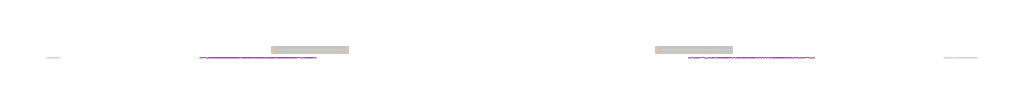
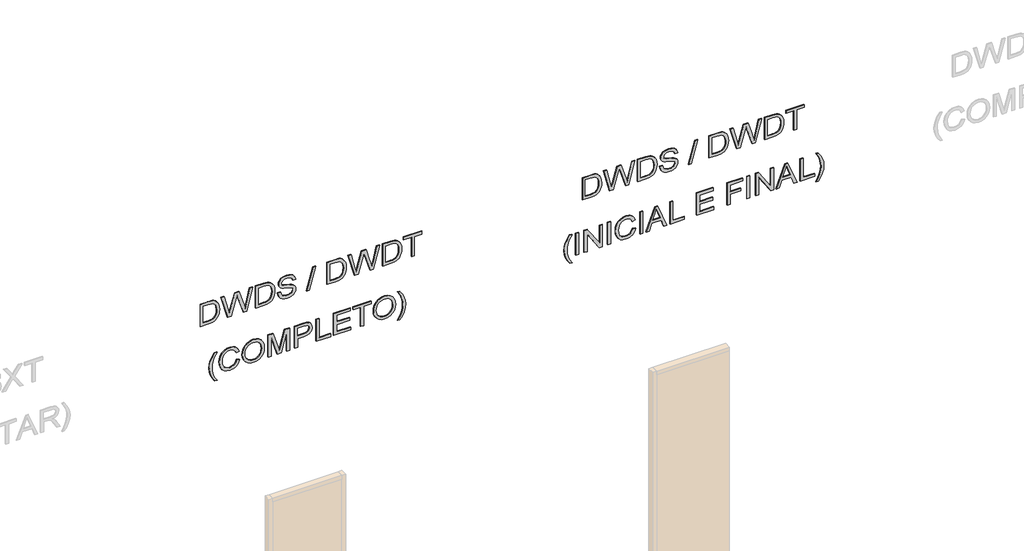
# One storey, part 6 of 7: 2 proxies.
"""IFC4 building model written with IfcOpenShell, lengths in millimetres."""

from ifc_helpers import new_model, si_unit, frame, origin, place, context, project, spatial, polyline, outline, extrude, element, save

model = new_model("IFC4")

# Units and contexts
model_context = context("Model", 3, world=origin())
ifc_project = project(units=[si_unit("LENGTHUNIT", "METRE", prefix="MILLI")], contexts=[model_context])

# Site, building, storey
site = spatial("IfcSite", under=ifc_project)
building = spatial("IfcBuilding", under=site)
storey = spatial("IfcBuildingStorey", under=building, Name="02 - Marelli - Planta Baixa - Painel Duplo", Elevation=-12000.0)

# Proxies
placement = place(None, origin())
element("IfcBuildingElementProxy", 1, Name="300mm Arial", ObjectType="300mm Arial", at=placement, inside=storey, context=model_context, shape_type="SweptSolid", body=[
    extrude(outline(polyline([(-6049.0625952, 42443.5157553), (-6049.0625952, 42552.4824023), (-6043.9122473, 42600.932461), (-6037.5570858, 42620.476192), (-6028.7922972, 42636.9481084), (-6016.9740882, 42651.2955062), (-6001.458665, 42664.4656816), (-5981.8045694, 42675.9068116), (-5957.570343, 42685.0670733), (-5929.1054736, 42691.0819439), (-5896.7594492, 42693.0869008), (-5858.6836627, 42690.1254508), (-5825.0960365, 42681.2411006), (-5796.5483937, 42666.3970621), (-5773.5925572, 42645.556547), (-5760.4039877, 42625.2862491), (-5752.0346723, 42601.2635548), (-5747.6936647, 42547.4792071), (-5747.6936647, 42443.5157553), (-6049.0625952, 42443.5157553)]), holes=[polyline([(-6011.3914789, 42481.1868716), (-5785.364781, 42481.1868716), (-5785.364781, 42546.8170195), (-5786.8730972, 42578.5652357), (-5791.3980458, 42600.2334852), (-5803.97961, 42621.5246557), (-5824.8017309, 42639.3393413), (-5855.1152073, 42651.3966737), (-5896.170838, 42655.4157845), (-5927.155699, 42653.3648424), (-5953.155759, 42647.212016), (-5974.2629885, 42637.3803697), (-5990.5693579, 42624.2929677), (-5999.3801317, 42612.1160737), (-6005.9468253, 42596.3339361), (-6010.0303155, 42575.4198447), (-6011.3914789, 42547.8470891), (-6011.3914789, 42481.1868716)])]), frame((0.0, 8778.3159498, 0.0), z_axis=(0.0, 1.0, 0.0), x_axis=(0.0, 0.0, 1.0)), (0.0, 0.0, 1.0), 10.0),
    extrude(outline(polyline([(-6049.0625952, 42798.8161862), (-6049.0625952, 42844.2864008), (-5823.1830501, 42910.137278), (-5784.1139823, 42921.4680434), (-5816.5611742, 42931.5480101), (-6049.0625952, 43003.8000339), (-6049.0625952, 43044.0463242), (-5747.6936647, 43126.3047383), (-5747.6936647, 43087.4563996), (-5947.5271645, 43039.3374347), (-6006.9033185, 43025.0636133), (-5951.5738665, 43011.3600089), (-5896.3915672, 42992.7635741), (-5747.6936647, 42949.3534987), (-5747.6936647, 42893.361859), (-5952.8246652, 42833.617823), (-6006.9033185, 42817.8724736), (-5945.7613309, 42803.1571938), (-5747.6936647, 42755.4796872), (-5747.6936647, 42716.6313485), (-6049.0625952, 42798.8161862)])), frame((0.0, 8778.3159498, 0.0), z_axis=(0.0, 1.0, 0.0), x_axis=(0.0, 0.0, 1.0)), (0.0, 0.0, 1.0), 10.0),
    extrude(outline(polyline([(-6049.0625952, 43163.9758546), (-6049.0625952, 43272.9425016), (-6043.9122473, 43321.3925604), (-6037.5570858, 43340.9362914), (-6028.7922972, 43357.4082077), (-6016.9740882, 43371.7556055), (-6001.458665, 43384.9257809), (-5981.8045694, 43396.366911), (-5957.570343, 43405.5271727), (-5929.1054736, 43411.5420433), (-5896.7594492, 43413.5470002), (-5858.6836627, 43410.5855501), (-5825.0960365, 43401.7011999), (-5796.5483937, 43386.8571614), (-5773.5925572, 43366.0166464), (-5760.4039877, 43345.7463485), (-5752.0346723, 43321.7236542), (-5747.6936647, 43267.9393065), (-5747.6936647, 43163.9758546), (-6049.0625952, 43163.9758546)]), holes=[polyline([(-6011.3914789, 43201.646971), (-5785.364781, 43201.646971), (-5785.364781, 43267.2771189), (-5786.8730972, 43299.0253351), (-5791.3980458, 43320.6935846), (-5803.97961, 43341.9847551), (-5824.8017309, 43359.7994407), (-5855.1152073, 43371.8567731), (-5896.170838, 43375.8758839), (-5927.155699, 43373.8249417), (-5953.155759, 43367.6721154), (-5974.2629885, 43357.8404691), (-5990.5693579, 43344.7530671), (-5999.3801317, 43332.576173), (-6005.9468253, 43316.7940354), (-6010.0303155, 43295.879944), (-6011.3914789, 43268.3071885), (-6011.3914789, 43201.646971)])]), frame((0.0, 8778.3159498, 0.0), z_axis=(0.0, 1.0, 0.0), x_axis=(0.0, 0.0, 1.0)), (0.0, 0.0, 1.0), 10.0),
    extrude(outline(polyline([(-5945.4670253, 43451.2181165), (-5975.8908663, 43455.6878827), (-6003.0037694, 43467.4785007), (-6025.2606301, 43485.8450093), (-6041.1163441, 43510.0424475), (-6050.6076996, 43540.4203033), (-6053.7714847, 43577.3280644), (-6050.8376258, 43607.3932205), (-6042.0360491, 43634.3129855), (-6027.9461687, 43656.6986049), (-6009.1473987, 43673.1613242), (-5987.3044052, 43683.2872761), (-5964.0818543, 43686.6625934), (-5941.3651411, 43683.7287345), (-5921.4811193, 43674.9271577), (-5904.6137298, 43659.9451635), (-5890.9469137, 43638.470052), (-5882.1361399, 43613.3437118), (-5872.0377791, 43571.8098345), (-5861.4059894, 43531.5635442), (-5850.994929, 43510.2999649), (-5839.3514638, 43501.3052501), (-5824.8753073, 43498.3070119), (-5807.8975532, 43502.5376548), (-5793.6053377, 43515.2295836), (-5783.8932531, 43537.1737447), (-5780.6558915, 43569.1610841), (-5783.9300413, 43600.4126596), (-5793.7524905, 43622.9454318), (-5809.9760865, 43637.366406), (-5832.4536764, 43644.2825875), (-5832.4536764, 43681.9537039), (-5807.4928831, 43677.7046668), (-5785.2912046, 43667.0176948), (-5766.9890754, 43650.1319113), (-5753.7269295, 43627.2864394), (-5745.6703138, 43599.4745605), (-5742.9847752, 43567.6895562), (-5745.5507521, 43538.350967), (-5753.2486829, 43511.8450693), (-5765.9038235, 43489.7629525), (-5783.3414301, 43473.6957064), (-5803.9152306, 43463.9008483), (-5825.9789533, 43460.6358956), (-5845.7158223, 43463.2754489), (-5863.4293404, 43471.1941088), (-5878.7884137, 43484.4838459), (-5891.4619484, 43503.2366306), (-5900.5210426, 43526.2752405), (-5910.0399892, 43562.2816908), (-5924.4241752, 43617.1328963), (-5932.2324706, 43633.2093395), (-5941.530688, 43642.7374832), (-5952.4291921, 43647.4279786), (-5965.0383475, 43648.9914771), (-5977.9785967, 43646.9037468), (-5990.3118406, 43640.6405558), (-6001.0539948, 43630.1099337), (-6009.2209751, 43615.2199099), (-6014.3805201, 43596.8442043), (-6016.1003684, 43575.8565364), (-6013.8286971, 43552.0177832), (-6007.0136831, 43530.6806274), (-5996.5106522, 43513.2246268), (-5983.1749298, 43501.0293386), (-5966.3719197, 43493.2118462), (-5945.4670253, 43488.8892328), (-5945.4670253, 43451.2181165)])), frame((0.0, 8778.3159498, 0.0), z_axis=(0.0, 1.0, 0.0), x_axis=(0.0, 0.0, 1.0)), (0.0, 0.0, 1.0), 10.0),
    extrude(outline(polyline([(-6049.0625952, 43827.9292795), (-6049.0625952, 43861.9215759), (-5747.6936647, 43946.6815876), (-5747.6936647, 43912.6892912), (-6049.0625952, 43827.9292795)])), frame((0.0, 8778.3159498, 0.0), z_axis=(0.0, 1.0, 0.0), x_axis=(0.0, 0.0, 1.0)), (0.0, 0.0, 1.0), 10.0),
    extrude(outline(polyline([(-6049.0625952, 44096.3359832), (-6049.0625952, 44205.3026302), (-6043.9122473, 44253.752689), (-6037.5570858, 44273.29642), (-6028.7922972, 44289.7683363), (-6016.9740882, 44304.1157341), (-6001.458665, 44317.2859095), (-5981.8045694, 44328.7270396), (-5957.570343, 44337.8873013), (-5929.1054736, 44343.9021719), (-5896.7594492, 44345.9071287), (-5858.6836627, 44342.9456787), (-5825.0960365, 44334.0613285), (-5796.5483937, 44319.21729), (-5773.5925572, 44298.376775), (-5760.4039877, 44278.106477), (-5752.0346723, 44254.0837828), (-5747.6936647, 44200.2994351), (-5747.6936647, 44096.3359832), (-6049.0625952, 44096.3359832)]), holes=[polyline([(-6011.3914789, 44134.0070995), (-5785.364781, 44134.0070995), (-5785.364781, 44199.6372475), (-5786.8730972, 44231.3854636), (-5791.3980458, 44253.0537132), (-5803.97961, 44274.3448836), (-5824.8017309, 44292.1595693), (-5855.1152073, 44304.2169016), (-5896.170838, 44308.2360124), (-5927.155699, 44306.1850703), (-5953.155759, 44300.0322439), (-5974.2629885, 44290.2005976), (-5990.5693579, 44277.1131957), (-5999.3801317, 44264.9363016), (-6005.9468253, 44249.154164), (-6010.0303155, 44228.2400726), (-6011.3914789, 44200.6673171), (-6011.3914789, 44134.0070995)])]), frame((0.0, 8778.3159498, 0.0), z_axis=(0.0, 1.0, 0.0), x_axis=(0.0, 0.0, 1.0)), (0.0, 0.0, 1.0), 10.0),
    extrude(outline(polyline([(-6049.0625952, 44451.6364142), (-6049.0625952, 44497.1066288), (-5823.1830501, 44562.9575059), (-5784.1139823, 44574.2882714), (-5816.5611742, 44584.368238), (-6049.0625952, 44656.6202619), (-6049.0625952, 44696.8665521), (-5747.6936647, 44779.1249663), (-5747.6936647, 44740.2766276), (-5947.5271645, 44692.1576626), (-6006.9033185, 44677.8838412), (-5951.5738665, 44664.1802369), (-5896.3915672, 44645.583802), (-5747.6936647, 44602.1737266), (-5747.6936647, 44546.1820869), (-5952.8246652, 44486.4380509), (-6006.9033185, 44470.6927015), (-5945.7613309, 44455.9774217), (-5747.6936647, 44408.2999151), (-5747.6936647, 44369.4515764), (-6049.0625952, 44451.6364142)])), frame((0.0, 8778.3159498, 0.0), z_axis=(0.0, 1.0, 0.0), x_axis=(0.0, 0.0, 1.0)), (0.0, 0.0, 1.0), 10.0),
    extrude(outline(polyline([(-6049.0625952, 44816.7960826), (-6049.0625952, 44925.7627295), (-6043.9122473, 44974.2127883), (-6037.5570858, 44993.7565193), (-6028.7922972, 45010.2284356), (-6016.9740882, 45024.5758335), (-6001.458665, 45037.7460089), (-5981.8045694, 45049.1871389), (-5957.570343, 45058.3474006), (-5929.1054736, 45064.3622712), (-5896.7594492, 45066.3672281), (-5858.6836627, 45063.405778), (-5825.0960365, 45054.5214279), (-5796.5483937, 45039.6773894), (-5773.5925572, 45018.8368743), (-5760.4039877, 44998.5665764), (-5752.0346723, 44974.5438821), (-5747.6936647, 44920.7595344), (-5747.6936647, 44816.7960826), (-6049.0625952, 44816.7960826)]), holes=[polyline([(-6011.3914789, 44854.4671989), (-5785.364781, 44854.4671989), (-5785.364781, 44920.0973468), (-5786.8730972, 44951.845563), (-5791.3980458, 44973.5138125), (-5803.97961, 44994.804983), (-5824.8017309, 45012.6196686), (-5855.1152073, 45024.677001), (-5896.170838, 45028.6961118), (-5927.155699, 45026.6451697), (-5953.155759, 45020.4923433), (-5974.2629885, 45010.660697), (-5990.5693579, 44997.573295), (-5999.3801317, 44985.396401), (-6005.9468253, 44969.6142634), (-6010.0303155, 44948.7001719), (-6011.3914789, 44921.1274164), (-6011.3914789, 44854.4671989)])]), frame((0.0, 8778.3159498, 0.0), z_axis=(0.0, 1.0, 0.0), x_axis=(0.0, 0.0, 1.0)), (0.0, 0.0, 1.0), 10.0),
    extrude(outline(polyline([(-6049.0625952, 45193.5072456), (-6049.0625952, 45231.1783619), (-5785.364781, 45231.1783619), (-5785.364781, 45330.0650422), (-5747.6936647, 45330.0650422), (-5747.6936647, 45094.6205653), (-5785.364781, 45094.6205653), (-5785.364781, 45193.5072456), (-6049.0625952, 45193.5072456)])), frame((0.0, 8778.3159498, 0.0), z_axis=(0.0, 1.0, 0.0), x_axis=(0.0, 0.0, 1.0)), (0.0, 0.0, 1.0), 10.0),
    extrude(outline(polyline([(-6865.6715139, 42631.8713368), (-6865.6715139, 42660.1246741), (-6817.4329873, 42631.2827256), (-6769.1760666, 42610.6813339), (-6720.9007518, 42598.3204989), (-6672.6070429, 42594.2002205), (-6634.7335915, 42596.5730594), (-6597.0440811, 42603.691576), (-6539.2130314, 42624.8815789), (-6479.5425718, 42660.1246741), (-6479.5425718, 42631.8713368), (-6530.0527697, 42597.1800647), (-6580.7836969, 42572.8630648), (-6625.5733298, 42560.6125944), (-6672.3863137, 42556.5291042), (-6725.7659912, 42561.9921518), (-6777.3062587, 42578.3812947), (-6824.7078538, 42602.6799005), (-6865.6715139, 42631.8713368)])), frame((0.0, 8778.3159498, 0.0), z_axis=(0.0, 1.0, 0.0), x_axis=(0.0, 0.0, 1.0)), (0.0, 0.0, 1.0), 10.0),
    extrude(outline(polyline([(-6673.7842653, 42914.4047091), (-6706.0475162, 42902.218618), (-6729.2608701, 42882.4357637), (-6743.2771741, 42856.2333686), (-6747.9492755, 42824.7886551), (-6744.5187759, 42797.8137078), (-6734.2272771, 42772.8069292), (-6717.0012026, 42751.94802), (-6692.7669762, 42737.4166812), (-6662.674229, 42728.891016), (-6627.8725923, 42726.0491276), (-6599.4537081, 42728.4495576), (-6571.8809526, 42735.6508477), (-6547.4903763, 42748.7750378), (-6528.61803, 42768.9441682), (-6516.5331064, 42795.5236424), (-6512.5047986, 42827.8788639), (-6516.1376333, 42855.9482601), (-6527.0361374, 42878.793732), (-6545.8808926, 42896.6360087), (-6573.3524806, 42909.6958196), (-6564.3761599, 42947.3669359), (-6526.5578908, 42930.7294727), (-6511.2356057, 42918.9273584), (-6498.3045536, 42904.802989), (-6488.0360474, 42888.623079), (-6480.7014001, 42870.6543428), (-6474.8336823, 42829.3503918), (-6479.3678279, 42791.4953345), (-6492.9702646, 42756.9512152), (-6515.3098988, 42727.8241582), (-6546.0556365, 42706.220288), (-6584.0026643, 42692.8385805), (-6627.9461687, 42688.3780113), (-6669.6088046, 42692.3235457), (-6708.5123256, 42704.1601489), (-6741.6033111, 42723.54753), (-6765.8283405, 42750.1453983), (-6780.672379, 42784.8458675), (-6785.6203918, 42828.5410514), (-6783.9856162, 42850.963459), (-6779.0812893, 42871.5832449), (-6770.9074112, 42890.4004089), (-6759.4639819, 42907.4149512), (-6744.9073512, 42922.2911794), (-6727.393869, 42934.6934012), (-6706.9235352, 42944.6216165), (-6683.4963499, 42952.0758254), (-6673.7842653, 42914.4047091)])), frame((0.0, 8778.3159498, 0.0), z_axis=(0.0, 1.0, 0.0), x_axis=(0.0, 0.0, 1.0)), (0.0, 0.0, 1.0), 10.0),
    extrude(outline(polyline([(-6634.2001626, 42989.7469417), (-6672.7449986, 42994.0511611), (-6709.2113014, 43006.9638191), (-6740.9043353, 43028.2273984), (-6765.1293647, 43057.5843816), (-6780.497635, 43093.232147), (-6785.6203918, 43133.3680726), (-6780.9850787, 43171.1771447), (-6767.0791392, 43206.3190723), (-6744.1600909, 43236.2830608), (-6712.4854512, 43258.5583156), (-6674.0233886, 43272.3814816), (-6630.7420718, 43276.9892036), (-6588.0309722, 43272.6114078), (-6550.1023385, 43259.4780206), (-6518.482881, 43237.9937121), (-6494.69931, 43208.5631525), (-6479.8000892, 43173.1177222), (-6474.8336823, 43133.5888018), (-6477.4778341, 43103.2983181), (-6485.4102896, 43075.9232991), (-6498.6310488, 43051.4637449), (-6517.1401117, 43029.9196556), (-6540.3212759, 43012.3440933), (-6567.5583392, 42999.7901202), (-6598.8513014, 42992.2577363), (-6634.2001626, 42989.7469417)]), holes=[polyline([(-6634.5680446, 43027.418058), (-6604.0315397, 43029.3816282), (-6578.1993259, 43035.2723386), (-6557.071403, 43045.0901894), (-6540.6477712, 43058.8351804), (-6528.3352207, 43075.3024982), (-6519.5405417, 43093.2873293), (-6514.2637344, 43112.7896735), (-6512.5047986, 43133.809531), (-6516.1560274, 43162.9733762), (-6527.1097138, 43189.1021949), (-6544.7036702, 43210.7612474), (-6568.275709, 43226.5157938), (-6597.0992634, 43236.1175139), (-6630.4477662, 43239.3180873), (-6656.9858537, 43237.4487869), (-6680.3141707, 43231.8408857), (-6700.4327173, 43222.4943838), (-6717.3414935, 43209.409281), (-6730.7323981, 43193.4271076), (-6740.29733, 43175.3893935), (-6746.0362891, 43155.2961388), (-6747.9492755, 43133.1473434), (-6746.0546832, 43111.3710286), (-6740.3709064, 43091.5122986), (-6730.897945, 43073.5711536), (-6717.6357991, 43057.5475934), (-6701.0765108, 43044.3659217), (-6681.7121223, 43034.9504419), (-6659.5426335, 43029.301154), (-6634.5680446, 43027.418058)])]), frame((0.0, 8778.3159498, 0.0), z_axis=(0.0, 1.0, 0.0), x_axis=(0.0, 0.0, 1.0)), (0.0, 0.0, 1.0), 10.0),
    extrude(outline(polyline([(-6780.9115023, 43328.7869885), (-6780.9115023, 43366.4581048), (-6517.2136881, 43366.4581048), (-6780.9115023, 43442.1682194), (-6780.9115023, 43493.2302403), (-6517.2136881, 43568.9403549), (-6780.9115023, 43568.9403549), (-6780.9115023, 43606.6114712), (-6479.5425718, 43606.6114712), (-6479.5425718, 43541.7906637), (-6688.2788159, 43481.1637109), (-6736.3242044, 43467.6992299), (-6691.9576358, 43455.2648184), (-6479.5425718, 43393.607796), (-6479.5425718, 43328.7869885), (-6780.9115023, 43328.7869885)])), frame((0.0, 8778.3159498, 0.0), z_axis=(0.0, 1.0, 0.0), x_axis=(0.0, 0.0, 1.0)), (0.0, 0.0, 1.0), 10.0),
    extrude(outline(polyline([(-6780.9115023, 43672.5359248), (-6780.9115023, 43710.2070411), (-6658.4803743, 43710.2070411), (-6658.4803743, 43786.8000725), (-6656.8157082, 43815.9984066), (-6651.8217101, 43840.3177057), (-6643.49838, 43859.7579699), (-6631.8457178, 43874.3191991), (-6617.7880271, 43884.9256969), (-6602.2496113, 43892.5017667), (-6585.2304705, 43897.0474086), (-6566.7306047, 43898.5626226), (-6545.2738873, 43896.3185424), (-6525.6381858, 43889.5863019), (-6508.9915255, 43879.1660444), (-6496.5019318, 43865.8579132), (-6487.7739314, 43849.3308146), (-6482.4120514, 43829.2536547), (-6479.5425718, 43784.2248985), (-6479.5425718, 43672.5359248), (-6780.9115023, 43672.5359248)]), holes=[polyline([(-6620.809258, 43710.2070411), (-6517.2136881, 43710.2070411), (-6517.2136881, 43788.1244477), (-6519.7888621, 43825.795564), (-6526.1164324, 43840.0234001), (-6536.8585867, 43851.2162098), (-6551.1324081, 43858.4726822), (-6568.0549798, 43860.8915063), (-6590.3302347, 43856.7896221), (-6606.9768949, 43844.4839693), (-6617.3511672, 43822.4110496), (-6620.809258, 43789.0073644), (-6620.809258, 43710.2070411)])]), frame((0.0, 8778.3159498, 0.0), z_axis=(0.0, 1.0, 0.0), x_axis=(0.0, 0.0, 1.0)), (0.0, 0.0, 1.0), 10.0),
    extrude(outline(polyline([(-6780.9115023, 43950.3604075), (-6780.9115023, 44138.7159891), (-6743.2403859, 44138.7159891), (-6743.2403859, 43988.0315238), (-6479.5425718, 43988.0315238), (-6479.5425718, 43950.3604075), (-6780.9115023, 43950.3604075)])), frame((0.0, 8778.3159498, 0.0), z_axis=(0.0, 1.0, 0.0), x_axis=(0.0, 0.0, 1.0)), (0.0, 0.0, 1.0), 10.0),
    extrude(outline(polyline([(-6780.9115023, 44181.0959949), (-6780.9115023, 44402.4138032), (-6743.2403859, 44402.4138032), (-6743.2403859, 44218.7671112), (-6644.3537056, 44218.7671112), (-6644.3537056, 44388.2871346), (-6606.6825893, 44388.2871346), (-6606.6825893, 44218.7671112), (-6517.2136881, 44218.7671112), (-6517.2136881, 44397.7049137), (-6479.5425718, 44397.7049137), (-6479.5425718, 44181.0959949), (-6780.9115023, 44181.0959949)])), frame((0.0, 8778.3159498, 0.0), z_axis=(0.0, 1.0, 0.0), x_axis=(0.0, 0.0, 1.0)), (0.0, 0.0, 1.0), 10.0),
    extrude(outline(polyline([(-6780.9115023, 44534.2627103), (-6780.9115023, 44571.9338266), (-6517.2136881, 44571.9338266), (-6517.2136881, 44670.8205069), (-6479.5425718, 44670.8205069), (-6479.5425718, 44435.37603), (-6517.2136881, 44435.37603), (-6517.2136881, 44534.2627103), (-6780.9115023, 44534.2627103)])), frame((0.0, 8778.3159498, 0.0), z_axis=(0.0, 1.0, 0.0), x_axis=(0.0, 0.0, 1.0)), (0.0, 0.0, 1.0), 10.0),
    extrude(outline(polyline([(-6634.2001626, 44699.0738441), (-6672.7449986, 44703.3780635), (-6709.2113014, 44716.2907215), (-6740.9043353, 44737.5543008), (-6765.1293647, 44766.911284), (-6780.497635, 44802.5590494), (-6785.6203918, 44842.694975), (-6780.9850787, 44880.5040471), (-6767.0791392, 44915.6459747), (-6744.1600909, 44945.6099632), (-6712.4854512, 44967.885218), (-6674.0233886, 44981.708384), (-6630.7420718, 44986.316106), (-6588.0309722, 44981.9383102), (-6550.1023385, 44968.804923), (-6518.482881, 44947.3206145), (-6494.69931, 44917.8900548), (-6479.8000892, 44882.4446246), (-6474.8336823, 44842.9157042), (-6477.4778341, 44812.6252205), (-6485.4102896, 44785.2502015), (-6498.6310488, 44760.7906473), (-6517.1401117, 44739.246558), (-6540.3212759, 44721.6709957), (-6567.5583392, 44709.1170226), (-6598.8513014, 44701.5846387), (-6634.2001626, 44699.0738441)]), holes=[polyline([(-6634.5680446, 44736.7449604), (-6604.0315397, 44738.7085306), (-6578.1993259, 44744.599241), (-6557.071403, 44754.4170918), (-6540.6477712, 44768.1620828), (-6528.3352207, 44784.6294006), (-6519.5405417, 44802.6142317), (-6514.2637344, 44822.1165759), (-6512.5047986, 44843.1364334), (-6516.1560274, 44872.3002786), (-6527.1097138, 44898.4290973), (-6544.7036702, 44920.0881498), (-6568.275709, 44935.8426962), (-6597.0992634, 44945.4444163), (-6630.4477662, 44948.6449896), (-6656.9858537, 44946.7756893), (-6680.3141707, 44941.1677881), (-6700.4327173, 44931.8212862), (-6717.3414935, 44918.7361834), (-6730.7323981, 44902.75401), (-6740.29733, 44884.7162959), (-6746.0362891, 44864.6230412), (-6747.9492755, 44842.4742458), (-6746.0546832, 44820.697931), (-6740.3709064, 44800.839201), (-6730.897945, 44782.898056), (-6717.6357991, 44766.8744958), (-6701.0765108, 44753.6928241), (-6681.7121223, 44744.2773443), (-6659.5426335, 44738.6280564), (-6634.5680446, 44736.7449604)])]), frame((0.0, 8778.3159498, 0.0), z_axis=(0.0, 1.0, 0.0), x_axis=(0.0, 0.0, 1.0)), (0.0, 0.0, 1.0), 10.0),
    extrude(outline(polyline([(-6865.6715139, 45042.8227804), (-6824.7078538, 45071.876261), (-6777.3062587, 45096.2024579), (-6725.7659912, 45112.6743742), (-6672.3863137, 45118.165013), (-6625.5733298, 45114.0815229), (-6580.7836969, 45101.8310524), (-6530.0527697, 45077.5140526), (-6479.5425718, 45042.8227804), (-6479.5425718, 45014.5694432), (-6539.8016426, 45050.0332675), (-6568.1469503, 45062.0078265), (-6597.7062687, 45071.0025412), (-6635.009503, 45078.1210578), (-6672.6070429, 45080.4938967), (-6720.9007518, 45076.3736184), (-6769.1760666, 45064.0127833), (-6817.4329873, 45043.4113916), (-6865.6715139, 45014.5694432), (-6865.6715139, 45042.8227804)])), frame((0.0, 8778.3159498, 0.0), z_axis=(0.0, 1.0, 0.0), x_axis=(0.0, 0.0, 1.0)), (0.0, 0.0, 1.0), 10.0),
])
element("IfcBuildingElementProxy", 2, Name="300mm Arial", ObjectType="300mm Arial", at=placement, inside=storey, context=model_context, shape_type="SweptSolid", body=[
    extrude(outline(polyline([(-6049.0625952, 47422.3257524), (-6049.0625952, 47531.2923993), (-6043.9122473, 47579.7424581), (-6037.5570858, 47599.2861891), (-6028.7922972, 47615.7581054), (-6016.9740882, 47630.1055032), (-6001.458665, 47643.2756787), (-5981.8045694, 47654.7168087), (-5957.570343, 47663.8770704), (-5929.1054736, 47669.891941), (-5896.7594492, 47671.8968979), (-5858.6836627, 47668.9354478), (-5825.0960365, 47660.0510977), (-5796.5483937, 47645.2070591), (-5773.5925572, 47624.3665441), (-5760.4039877, 47604.0962462), (-5752.0346723, 47580.0735519), (-5747.6936647, 47526.2892042), (-5747.6936647, 47422.3257524), (-6049.0625952, 47422.3257524)]), holes=[polyline([(-6011.3914789, 47459.9968687), (-5785.364781, 47459.9968687), (-5785.364781, 47525.6270166), (-5786.8730972, 47557.3752328), (-5791.3980458, 47579.0434823), (-5803.97961, 47600.3346528), (-5824.8017309, 47618.1493384), (-5855.1152073, 47630.2066708), (-5896.170838, 47634.2257816), (-5927.155699, 47632.1748395), (-5953.155759, 47626.0220131), (-5974.2629885, 47616.1903668), (-5990.5693579, 47603.1029648), (-5999.3801317, 47590.9260708), (-6005.9468253, 47575.1439332), (-6010.0303155, 47554.2298417), (-6011.3914789, 47526.6570862), (-6011.3914789, 47459.9968687)])]), frame((0.0, 8778.3159498, 0.0), z_axis=(0.0, 1.0, 0.0), x_axis=(0.0, 0.0, 1.0)), (0.0, 0.0, 1.0), 10.0),
    extrude(outline(polyline([(-6049.0625952, 47777.6261833), (-6049.0625952, 47823.0963979), (-5823.1830501, 47888.9472751), (-5784.1139823, 47900.2780405), (-5816.5611742, 47910.3580072), (-6049.0625952, 47982.610031), (-6049.0625952, 48022.8563213), (-5747.6936647, 48105.1147354), (-5747.6936647, 48066.2663967), (-5947.5271645, 48018.1474318), (-6006.9033185, 48003.8736103), (-5951.5738665, 47990.170006), (-5896.3915672, 47971.5735712), (-5747.6936647, 47928.1634957), (-5747.6936647, 47872.1718561), (-5952.8246652, 47812.4278201), (-6006.9033185, 47796.6824707), (-5945.7613309, 47781.9671909), (-5747.6936647, 47734.2896843), (-5747.6936647, 47695.4413456), (-6049.0625952, 47777.6261833)])), frame((0.0, 8778.3159498, 0.0), z_axis=(0.0, 1.0, 0.0), x_axis=(0.0, 0.0, 1.0)), (0.0, 0.0, 1.0), 10.0),
    extrude(outline(polyline([(-6049.0625952, 48142.7858517), (-6049.0625952, 48251.7524987), (-6043.9122473, 48300.2025575), (-6037.5570858, 48319.7462885), (-6028.7922972, 48336.2182048), (-6016.9740882, 48350.5656026), (-6001.458665, 48363.735778), (-5981.8045694, 48375.1769081), (-5957.570343, 48384.3371698), (-5929.1054736, 48390.3520404), (-5896.7594492, 48392.3569973), (-5858.6836627, 48389.3955472), (-5825.0960365, 48380.511197), (-5796.5483937, 48365.6671585), (-5773.5925572, 48344.8266435), (-5760.4039877, 48324.5563455), (-5752.0346723, 48300.5336513), (-5747.6936647, 48246.7493036), (-5747.6936647, 48142.7858517), (-6049.0625952, 48142.7858517)]), holes=[polyline([(-6011.3914789, 48180.456968), (-5785.364781, 48180.456968), (-5785.364781, 48246.087116), (-5786.8730972, 48277.8353322), (-5791.3980458, 48299.5035817), (-5803.97961, 48320.7947521), (-5824.8017309, 48338.6094378), (-5855.1152073, 48350.6667701), (-5896.170838, 48354.6858809), (-5927.155699, 48352.6349388), (-5953.155759, 48346.4821125), (-5974.2629885, 48336.6504661), (-5990.5693579, 48323.5630642), (-5999.3801317, 48311.3861701), (-6005.9468253, 48295.6040325), (-6010.0303155, 48274.6899411), (-6011.3914789, 48247.1171856), (-6011.3914789, 48180.456968)])]), frame((0.0, 8778.3159498, 0.0), z_axis=(0.0, 1.0, 0.0), x_axis=(0.0, 0.0, 1.0)), (0.0, 0.0, 1.0), 10.0),
    extrude(outline(polyline([(-5945.4670253, 48430.0281136), (-5975.8908663, 48434.4978798), (-6003.0037694, 48446.2884977), (-6025.2606301, 48464.6550064), (-6041.1163441, 48488.8524446), (-6050.6076996, 48519.2303003), (-6053.7714847, 48556.1380615), (-6050.8376258, 48586.2032176), (-6042.0360491, 48613.1229826), (-6027.9461687, 48635.508602), (-6009.1473987, 48651.9713212), (-5987.3044052, 48662.0972732), (-5964.0818543, 48665.4725905), (-5941.3651411, 48662.5387316), (-5921.4811193, 48653.7371548), (-5904.6137298, 48638.7551606), (-5890.9469137, 48617.2800491), (-5882.1361399, 48592.1537088), (-5872.0377791, 48550.6198316), (-5861.4059894, 48510.3735413), (-5850.994929, 48489.109962), (-5839.3514638, 48480.1152472), (-5824.8753073, 48477.1170089), (-5807.8975532, 48481.3476519), (-5793.6053377, 48494.0395807), (-5783.8932531, 48515.9837417), (-5780.6558915, 48547.9710812), (-5783.9300413, 48579.2226567), (-5793.7524905, 48601.7554289), (-5809.9760865, 48616.1764031), (-5832.4536764, 48623.0925846), (-5832.4536764, 48660.7637009), (-5807.4928831, 48656.5146639), (-5785.2912046, 48645.8276919), (-5766.9890754, 48628.9419083), (-5753.7269295, 48606.0964364), (-5745.6703138, 48578.2845576), (-5742.9847752, 48546.4995532), (-5745.5507521, 48517.1609641), (-5753.2486829, 48490.6550664), (-5765.9038235, 48468.5729496), (-5783.3414301, 48452.5057035), (-5803.9152306, 48442.7108453), (-5825.9789533, 48439.4458926), (-5845.7158223, 48442.0854459), (-5863.4293404, 48450.0041059), (-5878.7884137, 48463.293843), (-5891.4619484, 48482.0466277), (-5900.5210426, 48505.0852376), (-5910.0399892, 48541.0916879), (-5924.4241752, 48595.9428934), (-5932.2324706, 48612.0193366), (-5941.530688, 48621.5474802), (-5952.4291921, 48626.2379757), (-5965.0383475, 48627.8014742), (-5977.9785967, 48625.7137438), (-5990.3118406, 48619.4505529), (-6001.0539948, 48608.9199308), (-6009.2209751, 48594.029907), (-6014.3805201, 48575.6542013), (-6016.1003684, 48554.6665335), (-6013.8286971, 48530.8277802), (-6007.0136831, 48509.4906245), (-5996.5106522, 48492.0346238), (-5983.1749298, 48479.8393357), (-5966.3719197, 48472.0218433), (-5945.4670253, 48467.6992299), (-5945.4670253, 48430.0281136)])), frame((0.0, 8778.3159498, 0.0), z_axis=(0.0, 1.0, 0.0), x_axis=(0.0, 0.0, 1.0)), (0.0, 0.0, 1.0), 10.0),
    extrude(outline(polyline([(-6049.0625952, 48806.7392766), (-6049.0625952, 48840.731573), (-5747.6936647, 48925.4915847), (-5747.6936647, 48891.4992883), (-6049.0625952, 48806.7392766)])), frame((0.0, 8778.3159498, 0.0), z_axis=(0.0, 1.0, 0.0), x_axis=(0.0, 0.0, 1.0)), (0.0, 0.0, 1.0), 10.0),
    extrude(outline(polyline([(-6049.0625952, 49075.1459803), (-6049.0625952, 49184.1126273), (-6043.9122473, 49232.562686), (-6037.5570858, 49252.106417), (-6028.7922972, 49268.5783334), (-6016.9740882, 49282.9257312), (-6001.458665, 49296.0959066), (-5981.8045694, 49307.5370367), (-5957.570343, 49316.6972983), (-5929.1054736, 49322.712169), (-5896.7594492, 49324.7171258), (-5858.6836627, 49321.7556758), (-5825.0960365, 49312.8713256), (-5796.5483937, 49298.0272871), (-5773.5925572, 49277.186772), (-5760.4039877, 49256.9164741), (-5752.0346723, 49232.8937798), (-5747.6936647, 49179.1094321), (-5747.6936647, 49075.1459803), (-6049.0625952, 49075.1459803)]), holes=[polyline([(-6011.3914789, 49112.8170966), (-5785.364781, 49112.8170966), (-5785.364781, 49178.4472445), (-5786.8730972, 49210.1954607), (-5791.3980458, 49231.8637102), (-5803.97961, 49253.1548807), (-5824.8017309, 49270.9695663), (-5855.1152073, 49283.0268987), (-5896.170838, 49287.0460095), (-5927.155699, 49284.9950674), (-5953.155759, 49278.842241), (-5974.2629885, 49269.0105947), (-5990.5693579, 49255.9231927), (-5999.3801317, 49243.7462987), (-6005.9468253, 49227.9641611), (-6010.0303155, 49207.0500697), (-6011.3914789, 49179.4773141), (-6011.3914789, 49112.8170966)])]), frame((0.0, 8778.3159498, 0.0), z_axis=(0.0, 1.0, 0.0), x_axis=(0.0, 0.0, 1.0)), (0.0, 0.0, 1.0), 10.0),
    extrude(outline(polyline([(-6049.0625952, 49430.4464112), (-6049.0625952, 49475.9166258), (-5823.1830501, 49541.767503), (-5784.1139823, 49553.0982684), (-5816.5611742, 49563.1782351), (-6049.0625952, 49635.430259), (-6049.0625952, 49675.6765492), (-5747.6936647, 49757.9349633), (-5747.6936647, 49719.0866247), (-5947.5271645, 49670.9676597), (-6006.9033185, 49656.6938383), (-5951.5738665, 49642.990234), (-5896.3915672, 49624.3937991), (-5747.6936647, 49580.9837237), (-5747.6936647, 49524.992084), (-5952.8246652, 49465.248048), (-6006.9033185, 49449.5026986), (-5945.7613309, 49434.7874188), (-5747.6936647, 49387.1099122), (-5747.6936647, 49348.2615735), (-6049.0625952, 49430.4464112)])), frame((0.0, 8778.3159498, 0.0), z_axis=(0.0, 1.0, 0.0), x_axis=(0.0, 0.0, 1.0)), (0.0, 0.0, 1.0), 10.0),
    extrude(outline(polyline([(-6049.0625952, 49795.6060797), (-6049.0625952, 49904.5727266), (-6043.9122473, 49953.0227854), (-6037.5570858, 49972.5665164), (-6028.7922972, 49989.0384327), (-6016.9740882, 50003.3858305), (-6001.458665, 50016.556006), (-5981.8045694, 50027.997136), (-5957.570343, 50037.1573977), (-5929.1054736, 50043.1722683), (-5896.7594492, 50045.1772252), (-5858.6836627, 50042.2157751), (-5825.0960365, 50033.3314249), (-5796.5483937, 50018.4873864), (-5773.5925572, 49997.6468714), (-5760.4039877, 49977.3765735), (-5752.0346723, 49953.3538792), (-5747.6936647, 49899.5695315), (-5747.6936647, 49795.6060797), (-6049.0625952, 49795.6060797)]), holes=[polyline([(-6011.3914789, 49833.277196), (-5785.364781, 49833.277196), (-5785.364781, 49898.9073439), (-5786.8730972, 49930.6555601), (-5791.3980458, 49952.3238096), (-5803.97961, 49973.6149801), (-5824.8017309, 49991.4296657), (-5855.1152073, 50003.4869981), (-5896.170838, 50007.5061089), (-5927.155699, 50005.4551668), (-5953.155759, 49999.3023404), (-5974.2629885, 49989.4706941), (-5990.5693579, 49976.3832921), (-5999.3801317, 49964.206398), (-6005.9468253, 49948.4242604), (-6010.0303155, 49927.510169), (-6011.3914789, 49899.9374135), (-6011.3914789, 49833.277196)])]), frame((0.0, 8778.3159498, 0.0), z_axis=(0.0, 1.0, 0.0), x_axis=(0.0, 0.0, 1.0)), (0.0, 0.0, 1.0), 10.0),
    extrude(outline(polyline([(-6049.0625952, 50172.3172427), (-6049.0625952, 50209.988359), (-5785.364781, 50209.988359), (-5785.364781, 50308.8750393), (-5747.6936647, 50308.8750393), (-5747.6936647, 50073.4305624), (-5785.364781, 50073.4305624), (-5785.364781, 50172.3172427), (-6049.0625952, 50172.3172427)])), frame((0.0, 8778.3159498, 0.0), z_axis=(0.0, 1.0, 0.0), x_axis=(0.0, 0.0, 1.0)), (0.0, 0.0, 1.0), 10.0),
    extrude(outline(polyline([(-6865.6715139, 47257.5146185), (-6865.6715139, 47285.7679558), (-6817.4329873, 47256.9260073), (-6769.1760666, 47236.3246156), (-6720.9007518, 47223.9637806), (-6672.6070429, 47219.8435022), (-6634.7335915, 47222.2163411), (-6597.0440811, 47229.3348577), (-6539.2130314, 47250.5248606), (-6479.5425718, 47285.7679558), (-6479.5425718, 47257.5146185), (-6530.0527697, 47222.8233464), (-6580.7836969, 47198.5063465), (-6625.5733298, 47186.2558761), (-6672.3863137, 47182.1723859), (-6725.7659912, 47187.6354335), (-6777.3062587, 47204.0245764), (-6824.7078538, 47228.3231822), (-6865.6715139, 47257.5146185)])), frame((0.0, 8778.3159498, 0.0), z_axis=(0.0, 1.0, 0.0), x_axis=(0.0, 0.0, 1.0)), (0.0, 0.0, 1.0), 10.0),
    extrude(outline(polyline([(47370.5279674, 8778.3159498), (47332.8568511, 8778.3159498), (47332.8568511, 8788.3159498), (47370.5279674, 8788.3159498), (47370.5279674, 8778.3159498)])), frame((0.0, 0.0, -6780.9115023), z_axis=(0.0, 0.0, 1.0), x_axis=(1.0, 0.0, 0.0)), (0.0, 0.0, 1.0), 301.3689304),
    extrude(outline(polyline([(-6780.9115023, 47445.8702001), (-6780.9115023, 47483.5413164), (-6542.082511, 47483.5413164), (-6780.9115023, 47640.9948103), (-6780.9115023, 47681.314677), (-6479.5425718, 47681.314677), (-6479.5425718, 47643.6435607), (-6718.2979867, 47643.6435607), (-6479.5425718, 47486.1900667), (-6479.5425718, 47445.8702001), (-6780.9115023, 47445.8702001)])), frame((0.0, 8778.3159498, 0.0), z_axis=(0.0, 1.0, 0.0), x_axis=(0.0, 0.0, 1.0)), (0.0, 0.0, 1.0), 10.0),
    extrude(outline(polyline([(47789.6191364, 8778.3159498), (47751.94802, 8778.3159498), (47751.94802, 8788.3159498), (47789.6191364, 8788.3159498), (47789.6191364, 8778.3159498)])), frame((0.0, 0.0, -6780.9115023), z_axis=(0.0, 0.0, 1.0), x_axis=(1.0, 0.0, 0.0)), (0.0, 0.0, 1.0), 301.3689304),
    extrude(outline(polyline([(-6673.7842653, 48076.8613982), (-6706.0475162, 48064.6753071), (-6729.2608701, 48044.8924528), (-6743.2771741, 48018.6900577), (-6747.9492755, 47987.2453442), (-6744.5187759, 47960.2703969), (-6734.2272771, 47935.2636182), (-6717.0012026, 47914.4047091), (-6692.7669762, 47899.8733703), (-6662.674229, 47891.3477051), (-6627.8725923, 47888.5058167), (-6599.4537081, 47890.9062467), (-6571.8809526, 47898.1075367), (-6547.4903763, 47911.2317269), (-6528.61803, 47931.4008573), (-6516.5331064, 47957.9803314), (-6512.5047986, 47990.3355529), (-6516.1376333, 48018.4049492), (-6527.0361374, 48041.2504211), (-6545.8808926, 48059.0926978), (-6573.3524806, 48072.1525086), (-6564.3761599, 48109.823625), (-6526.5578908, 48093.1861617), (-6511.2356057, 48081.3840475), (-6498.3045536, 48067.2596781), (-6488.0360474, 48051.0797681), (-6480.7014001, 48033.1110319), (-6474.8336823, 47991.8070809), (-6479.3678279, 47953.9520236), (-6492.9702646, 47919.4079043), (-6515.3098988, 47890.2808473), (-6546.0556365, 47868.6769771), (-6584.0026643, 47855.2952695), (-6627.9461687, 47850.8347003), (-6669.6088046, 47854.7802347), (-6708.5123256, 47866.6168379), (-6741.6033111, 47886.0042191), (-6765.8283405, 47912.6020873), (-6780.672379, 47947.3025565), (-6785.6203918, 47990.9977405), (-6783.9856162, 48013.4201481), (-6779.0812893, 48034.0399339), (-6770.9074112, 48052.857098), (-6759.4639819, 48069.8716403), (-6744.9073512, 48084.7478685), (-6727.393869, 48097.1500902), (-6706.9235352, 48107.0783056), (-6683.4963499, 48114.5325145), (-6673.7842653, 48076.8613982)])), frame((0.0, 8778.3159498, 0.0), z_axis=(0.0, 1.0, 0.0), x_axis=(0.0, 0.0, 1.0)), (0.0, 0.0, 1.0), 10.0),
    extrude(outline(polyline([(48208.7103053, 8778.3159498), (48171.039189, 8778.3159498), (48171.039189, 8788.3159498), (48208.7103053, 8788.3159498), (48208.7103053, 8778.3159498)])), frame((0.0, 0.0, -6780.9115023), z_axis=(0.0, 0.0, 1.0), x_axis=(1.0, 0.0, 0.0)), (0.0, 0.0, 1.0), 301.3689304),
    extrude(outline(polyline([(-6780.9115023, 48248.9565955), (-6780.9115023, 48288.7614274), (-6686.7337115, 48323.1951822), (-6686.7337115, 48447.3185673), (-6780.9115023, 48481.8258985), (-6780.9115023, 48521.6307304), (-6479.5425718, 48401.3333179), (-6479.5425718, 48369.254008), (-6780.9115023, 48248.9565955)]), holes=[polyline([(-6649.0625952, 48337.0275452), (-6568.4964382, 48366.5316812), (-6517.2136881, 48385.2936629), (-6574.9711614, 48406.4100895), (-6649.0625952, 48433.5597807), (-6649.0625952, 48337.0275452)])]), frame((0.0, 8778.3159498, 0.0), z_axis=(0.0, 1.0, 0.0), x_axis=(0.0, 0.0, 1.0)), (0.0, 0.0, 1.0), 10.0),
    extrude(outline(polyline([(-6780.9115023, 48561.8770206), (-6780.9115023, 48750.2326022), (-6743.2403859, 48750.2326022), (-6743.2403859, 48599.5481369), (-6479.5425718, 48599.5481369), (-6479.5425718, 48561.8770206), (-6780.9115023, 48561.8770206)])), frame((0.0, 8778.3159498, 0.0), z_axis=(0.0, 1.0, 0.0), x_axis=(0.0, 0.0, 1.0)), (0.0, 0.0, 1.0), 10.0),
    extrude(outline(polyline([(-6780.9115023, 48910.3348465), (-6780.9115023, 49131.6526548), (-6743.2403859, 49131.6526548), (-6743.2403859, 48948.0059628), (-6644.3537056, 48948.0059628), (-6644.3537056, 49117.5259861), (-6606.6825893, 49117.5259861), (-6606.6825893, 48948.0059628), (-6517.2136881, 48948.0059628), (-6517.2136881, 49126.9437652), (-6479.5425718, 49126.9437652), (-6479.5425718, 48910.3348465), (-6780.9115023, 48910.3348465)])), frame((0.0, 8778.3159498, 0.0), z_axis=(0.0, 1.0, 0.0), x_axis=(0.0, 0.0, 1.0)), (0.0, 0.0, 1.0), 10.0),
    extrude(outline(polyline([(-6780.9115023, 49305.8815677), (-6780.9115023, 49343.552684), (-6644.3537056, 49343.552684), (-6644.3537056, 49484.8193701), (-6606.6825893, 49484.8193701), (-6606.6825893, 49343.552684), (-6517.2136881, 49343.552684), (-6517.2136881, 49508.3638178), (-6479.5425718, 49508.3638178), (-6479.5425718, 49305.8815677), (-6780.9115023, 49305.8815677)])), frame((0.0, 8778.3159498, 0.0), z_axis=(0.0, 1.0, 0.0), x_axis=(0.0, 0.0, 1.0)), (0.0, 0.0, 1.0), 10.0),
    extrude(outline(polyline([(49602.5416086, 8778.3159498), (49564.8704923, 8778.3159498), (49564.8704923, 8788.3159498), (49602.5416086, 8788.3159498), (49602.5416086, 8778.3159498)])), frame((0.0, 0.0, -6780.9115023), z_axis=(0.0, 0.0, 1.0), x_axis=(1.0, 0.0, 0.0)), (0.0, 0.0, 1.0), 301.3689304),
    extrude(outline(polyline([(-6780.9115023, 49677.8838412), (-6780.9115023, 49715.5549575), (-6542.082511, 49715.5549575), (-6780.9115023, 49873.0084514), (-6780.9115023, 49913.3283181), (-6479.5425718, 49913.3283181), (-6479.5425718, 49875.6572018), (-6718.2979867, 49875.6572018), (-6479.5425718, 49718.2037079), (-6479.5425718, 49677.8838412), (-6780.9115023, 49677.8838412)])), frame((0.0, 8778.3159498, 0.0), z_axis=(0.0, 1.0, 0.0), x_axis=(0.0, 0.0, 1.0)), (0.0, 0.0, 1.0), 10.0),
    extrude(outline(polyline([(-6780.9115023, 49944.1568293), (-6780.9115023, 49983.9616612), (-6686.7337115, 50018.3954159), (-6686.7337115, 50142.5188011), (-6780.9115023, 50177.0261323), (-6780.9115023, 50216.8309641), (-6479.5425718, 50096.5335517), (-6479.5425718, 50064.4542417), (-6780.9115023, 49944.1568293)]), holes=[polyline([(-6649.0625952, 50032.227779), (-6568.4964382, 50061.731915), (-6517.2136881, 50080.4938967), (-6574.9711614, 50101.6103232), (-6649.0625952, 50128.7600145), (-6649.0625952, 50032.227779)])]), frame((0.0, 8778.3159498, 0.0), z_axis=(0.0, 1.0, 0.0), x_axis=(0.0, 0.0, 1.0)), (0.0, 0.0, 1.0), 10.0),
    extrude(outline(polyline([(-6780.9115023, 50257.0772544), (-6780.9115023, 50445.4328359), (-6743.2403859, 50445.4328359), (-6743.2403859, 50294.7483707), (-6479.5425718, 50294.7483707), (-6479.5425718, 50257.0772544), (-6780.9115023, 50257.0772544)])), frame((0.0, 8778.3159498, 0.0), z_axis=(0.0, 1.0, 0.0), x_axis=(0.0, 0.0, 1.0)), (0.0, 0.0, 1.0), 10.0),
    extrude(outline(polyline([(-6865.6715139, 50492.5217313), (-6824.7078538, 50521.5752119), (-6777.3062587, 50545.9014088), (-6725.7659912, 50562.3733251), (-6672.3863137, 50567.8639639), (-6625.5733298, 50563.7804738), (-6580.7836969, 50551.5300033), (-6530.0527697, 50527.2130035), (-6479.5425718, 50492.5217313), (-6479.5425718, 50464.2683941), (-6539.8016426, 50499.7322184), (-6568.1469503, 50511.7067774), (-6597.7062687, 50520.7014921), (-6635.009503, 50527.8200088), (-6672.6070429, 50530.1928476), (-6720.9007518, 50526.0725693), (-6769.1760666, 50513.7117342), (-6817.4329873, 50493.1103425), (-6865.6715139, 50464.2683941), (-6865.6715139, 50492.5217313)])), frame((0.0, 8778.3159498, 0.0), z_axis=(0.0, 1.0, 0.0), x_axis=(0.0, 0.0, 1.0)), (0.0, 0.0, 1.0), 10.0),
])

save(model, "model.ifc")
